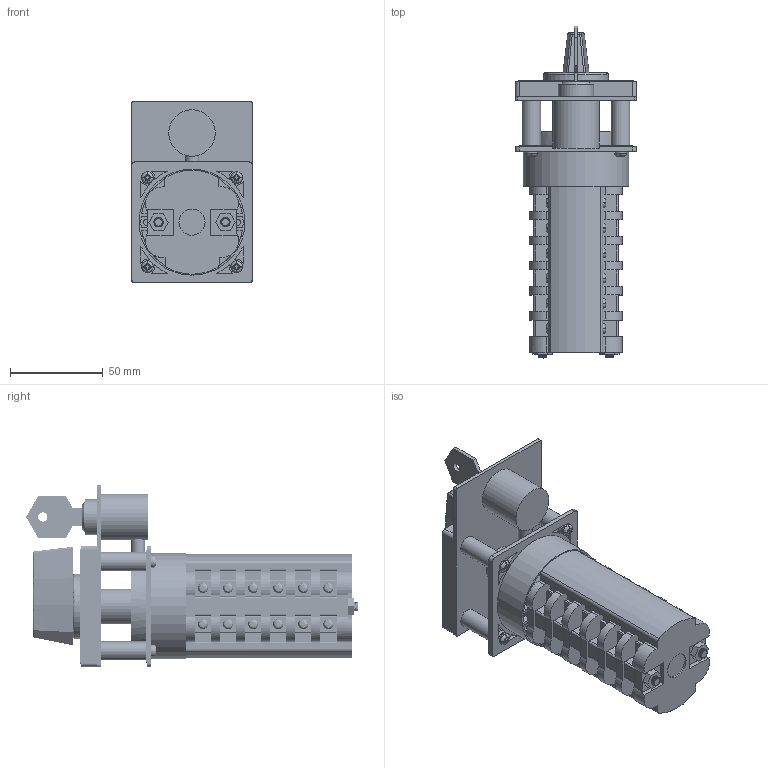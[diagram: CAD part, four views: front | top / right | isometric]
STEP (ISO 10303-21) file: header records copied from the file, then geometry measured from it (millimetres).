
FILE_DESCRIPTION(/* description */ (''),/* implementation_level */ '2;1');
FILE_NAME(/* name */ '4G16,25_S5_6_korpusow.stp',/* time_stamp */ '2021-07-21T12:16:15+02:00',/* author */ (''),/* organization */ (''),/* preprocessor_version */ 'ST-DEVELOPER v18.1',/* originating_system */ 'SIEMENS PLM Software NX 1965',/* authorisation */ '');
FILE_SCHEMA (('AUTOMOTIVE_DESIGN { 1 0 10303 214 3 1 1 1 }'));
Products named in the file (1): 4G16,25_S5_6_korpusow_stp
Bounding box: 65 x 178.6 x 97.5 mm (x, y, z)
Volume: 330827.3 mm3; surface area: 79556 mm2
Topology: 2 solids, 13 shells, 1549 faces, 4309 edges, 2842 vertices
Faces by surface type: plane 913, cylinder 426, bspline 155, cone 52, sphere 2, torus 1
Full cylindrical faces by diameter (mm): 3.3 x2, 4 x4, 4.3 x4, 5 x3, 5.4 x25, 6.4 x4, 6.5 x2, 7.2 x4, 7.5 x1, 10 x5, 14 x1, 15.8 x1, 19 x2, 21.2 x1, 25 x1, 35 x1, 57 x1
Entity records: 142426 total; most frequent: CARTESIAN_POINT 104577, ORIENTED_EDGE 8258, DIRECTION 7068, EDGE_CURVE 4129, VERTEX_POINT 2762, AXIS2_PLACEMENT_3D 2541, LINE 1986, VECTOR 1986
